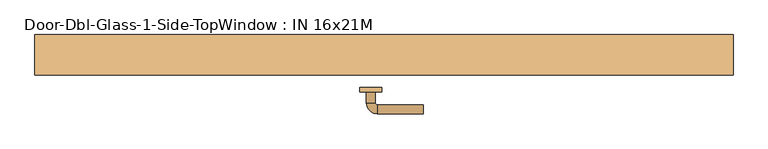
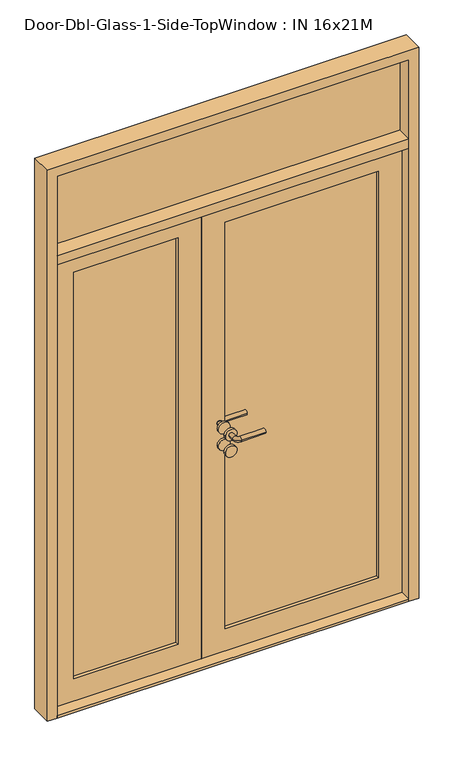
"""IFC4 building model written with IfcOpenShell, lengths in millimetres: door geometry, Door-Dbl-Glass-1-Side-TopWindow : IN 16x21M."""

from ifc_helpers import new_model, si_unit, point, frame, frame_2d, origin, origin_with_axes, place, context, project, spatial, polyline, circle_curve, ellipse_curve, trimmed, segment, composite_curve, outline, extrude, source, transform, mapped, element, save
from ifc_brep_helpers import plane_surface, cylinder_surface, revolved_surface, advanced_brep


def door_dbl_glass_1_side_topwindow_in_16x21m_3a073210(model_context):
    return source(origin(), model_context, "Body", "SolidModel", [
        extrude(outline(polyline([(0.0, 748.0), (0.0, 790.0), (2490.0, 790.0), (2490.0, -800.0), (0.0, -800.0), (0.0, -758.0), (2448.0, -758.0), (2448.0, 748.0), (0.0, 748.0)])), frame((0.0, 63.0, 0.0), z_axis=(0.0, 1.0, 0.0), x_axis=(0.0, 0.0, 1.0)), (0.0, 0.0, 1.0), 92.0),
        extrude(outline(polyline([(2048.0, -110.0), (2048.0, -758.0), (10.0, -758.0), (10.0, -110.0), (2048.0, -110.0)]), holes=[polyline([(110.0, -658.0), (1948.0, -658.0), (1948.0, -210.0), (110.0, -210.0), (110.0, -658.0)])]), frame((0.0, 115.0, 0.0), z_axis=(0.0, 1.0, 0.0), x_axis=(0.0, 0.0, 1.0)), (0.0, 0.0, 1.0), 40.0),
        extrude(outline(polyline([(10.0, 748.0), (2048.0, 748.0), (2048.0, -110.0), (10.0, -110.0), (10.0, 748.0)]), holes=[polyline([(1948.0, -10.0), (1948.0, 648.0), (110.0, 648.0), (110.0, -10.0), (1948.0, -10.0)])]), frame((0.0, 115.0, 0.0), z_axis=(0.0, 1.0, 0.0), x_axis=(0.0, 0.0, 1.0)), (0.0, 0.0, 1.0), 40.0),
        extrude(outline(polyline([(-658.0, 140.0), (-210.0, 140.0), (-210.0, 130.0), (-658.0, 130.0), (-658.0, 140.0)])), frame((0.0, 0.0, 110.0), z_axis=(0.0, 0.0, 1.0), x_axis=(1.0, 0.0, 0.0)), (0.0, 0.0, 1.0), 1838.0),
        extrude(outline(polyline([(-10.0, 140.0), (648.0, 140.0), (648.0, 130.0), (-10.0, 130.0), (-10.0, 140.0)])), frame((0.0, 0.0, 110.0), z_axis=(0.0, 0.0, 1.0), x_axis=(1.0, 0.0, 0.0)), (0.0, 0.0, 1.0), 1838.0),
        extrude(outline(polyline([(0.0, 748.0), (0.0, 790.0), (2490.0, 790.0), (2490.0, -800.0), (0.0, -800.0), (0.0, -758.0), (2048.0, -758.0), (2048.0, 748.0), (0.0, 748.0)]), holes=[polyline([(2090.0, -758.0), (2448.0, -758.0), (2448.0, 748.0), (2090.0, 748.0), (2090.0, -758.0)])]), frame((0.0, 63.0, 0.0), z_axis=(0.0, 1.0, 0.0), x_axis=(0.0, 0.0, 1.0)), (0.0, 0.0, 1.0), 92.0),
        extrude(outline(polyline([(-758.0, 140.0), (748.0, 140.0), (748.0, 130.0), (-758.0, 130.0), (-758.0, 140.0)])), frame((0.0, 0.0, 2090.0), z_axis=(0.0, 0.0, 1.0), x_axis=(1.0, 0.0, 0.0)), (0.0, 0.0, 1.0), 358.0),
        extrude(outline(composite_curve([segment(trimmed(circle_curve(frame_2d((1050.0001042, -35.0)), 25.0), [point((1050.0001042, -60.0))], [point((1050.0001042, -10.0))], False, "CARTESIAN"), True, "CONTINUOUS"), segment(trimmed(circle_curve(frame_2d((1050.0001042, -35.0)), 25.0), [point((1050.0001042, -10.0))], [point((1050.0001042, -60.0))], False, "CARTESIAN"), True, "CONTINUOUS")], self_intersect=False)), frame((0.0, 75.0, 0.0), z_axis=(0.0, 1.0, 0.0), x_axis=(0.0, 0.0, 1.0)), (0.0, 0.0, 1.0), 10.0),
        extrude(outline(composite_curve([segment(trimmed(circle_curve(frame_2d((975.0001042, -35.0)), 25.0), [point((975.0001042, -60.0))], [point((975.0001042, -10.0))], False, "CARTESIAN"), True, "CONTINUOUS"), segment(trimmed(circle_curve(frame_2d((975.0001042, -35.0)), 25.0), [point((975.0001042, -10.0))], [point((975.0001042, -60.0))], False, "CARTESIAN"), True, "CONTINUOUS")], self_intersect=False)), frame((0.0, 75.0, 0.0), z_axis=(0.0, 1.0, 0.0), x_axis=(0.0, 0.0, 1.0)), (0.0, 0.0, 1.0), 10.0),
        advanced_brep(
        [(-45.125, 25.0, 1050.0), (-25.125, 25.0, 1050.0), (-25.125, 0.0, 1050.0), (-45.125, 0.0, 1050.0), (-20.125, -25.0, 1050.0), (-20.125, -5.0, 1050.0), (84.875, -25.0, 1050.0), (84.875, -5.0, 1050.0)],
        [
            (0, 1, circle_curve(frame((-35.125, 25.0, 1050.0), z_axis=(0.0, 1.0, 0.0), x_axis=(1.0, 0.0, 0.0)), 10.0)),
            (1, 0, circle_curve(frame((-35.125, 25.0, 1050.0), z_axis=(0.0, 1.0, 0.0), x_axis=(1.0, 0.0, 0.0)), 10.0)),
            (1, 2),
            (2, 3, circle_curve(frame((-35.125, 0.0, 1050.0), z_axis=(0.0, 1.0, 0.0), x_axis=(1.0, 0.0, 0.0)), 10.0)),
            (3, 0),
            (3, 2, circle_curve(frame((-35.125, 0.0, 1050.0), z_axis=(0.0, 1.0, 0.0), x_axis=(1.0, 0.0, 0.0)), 10.0)),
            (4, 3, circle_curve(frame((-20.125, 0.0, 1050.0), z_axis=(0.0, 0.0, -1.0), x_axis=(-1.0, 0.0, 0.0)), 25.0)),
            (2, 5, circle_curve(frame((-20.125, 0.0, 1050.0), z_axis=(0.0, 0.0, 1.0), x_axis=(-1.0, 0.0, 0.0)), 5.0)),
            (5, 4, circle_curve(frame((-20.125, -15.0, 1050.0), z_axis=(-1.0, 0.0, 0.0), x_axis=(0.0, 1.0, 0.0)), 10.0)),
            (4, 5, circle_curve(frame((-20.125, -15.0, 1050.0), z_axis=(-1.0, 0.0, 0.0), x_axis=(0.0, 1.0, 0.0)), 10.0)),
            (6, 7, circle_curve(frame((84.875, -15.0, 1050.0), z_axis=(1.0, 0.0, 0.0), x_axis=(0.0, 1.0, 0.0)), 10.0)),
            (7, 6, circle_curve(frame((84.875, -15.0, 1050.0), z_axis=(1.0, 0.0, 0.0), x_axis=(0.0, 1.0, 0.0)), 10.0)),
            (5, 7),
            (6, 4),
        ],
        [
            plane_surface(frame((-35.125, 25.0, 0.0), z_axis=(0.0, 1.0, 0.0), x_axis=(0.0, 0.0, 1.0))),
            cylinder_surface(frame((-35.125, 25.0, 1050.0), z_axis=(0.0, 1.0, 0.0), x_axis=(1.0, 0.0, 0.0)), 10.0),
            revolved_surface(trimmed(ellipse_curve(frame((-35.125, 0.0, 1050.0), z_axis=(0.0, 1.0, 0.0), x_axis=(1.0, 0.0, 0.0)), 10.0, 10.0), [point((-25.125, 0.0, 1050.0))], [point((-45.125, 0.0, 1050.0))], True, "CARTESIAN"), (-20.125, 0.0, 0.0), (0.0, 0.0, 1.0)),
            revolved_surface(trimmed(ellipse_curve(frame((-35.125, 0.0, 1050.0), z_axis=(0.0, 1.0, 0.0), x_axis=(1.0, 0.0, 0.0)), 10.0, 10.0), [point((-45.125, 0.0, 1050.0))], [point((-25.125, 0.0, 1050.0))], True, "CARTESIAN"), (-20.125, 0.0, 0.0), (0.0, 0.0, 1.0)),
            plane_surface(frame((84.875, -15.0, 0.0), z_axis=(1.0, 0.0, 0.0), x_axis=(0.0, 0.0, 1.0))),
            cylinder_surface(frame((-20.125, -15.0, 1050.0), z_axis=(-1.0, 0.0, 0.0), x_axis=(0.0, 1.0, 0.0)), 10.0),
        ],
        [
            (0, [[1, 2]]),
            (1, [[-2, 3, 4, 5]]),
            (1, [[-1, -5, 6, -3]]),
            (2, [[7, -4, 8, 9]]),
            (3, [[-8, -6, -7, 10]]),
            (4, [[11, 12]]),
            (5, [[-9, 13, -11, 14]]),
            (5, [[-10, -14, -12, -13]]),
        ],
    ),
        advanced_brep(
        [(-25.125, 85.0, 1050.0), (-45.125, 85.0, 1050.0), (-25.125, 110.0, 1050.0), (-45.125, 110.0, 1050.0), (-20.125, 135.0, 1050.0), (-20.125, 115.0, 1050.0), (84.875, 115.0, 1050.0), (84.875, 135.0, 1050.0)],
        [
            (0, 1, circle_curve(frame((-35.125, 85.0, 1050.0), z_axis=(0.0, -1.0, 0.0), x_axis=(-1.0, 0.0, 0.0)), 10.0)),
            (1, 0, circle_curve(frame((-35.125, 85.0, 1050.0), z_axis=(0.0, -1.0, 0.0), x_axis=(-1.0, 0.0, 0.0)), 10.0)),
            (0, 2),
            (2, 3, circle_curve(frame((-35.125, 110.0, 1050.0), z_axis=(0.0, -1.0, 0.0), x_axis=(-1.0, 0.0, 0.0)), 10.0)),
            (3, 1),
            (3, 2, circle_curve(frame((-35.125, 110.0, 1050.0), z_axis=(0.0, -1.0, 0.0), x_axis=(-1.0, 0.0, 0.0)), 10.0)),
            (4, 3, circle_curve(frame((-20.125, 110.0, 1050.0), z_axis=(0.0, 0.0, 1.0), x_axis=(-1.0, 0.0, 0.0)), 25.0)),
            (2, 5, circle_curve(frame((-20.125, 110.0, 1050.0), z_axis=(0.0, 0.0, -1.0), x_axis=(-1.0, 0.0, 0.0)), 5.0)),
            (5, 4, circle_curve(frame((-20.125, 125.0, 1050.0), z_axis=(-1.0, 0.0, 0.0), x_axis=(0.0, 1.0, 0.0)), 10.0)),
            (4, 5, circle_curve(frame((-20.125, 125.0, 1050.0), z_axis=(-1.0, 0.0, 0.0), x_axis=(0.0, 1.0, 0.0)), 10.0)),
            (6, 7, circle_curve(frame((84.875, 125.0, 1050.0), z_axis=(1.0, 0.0, 0.0), x_axis=(0.0, 1.0, 0.0)), 10.0)),
            (7, 6, circle_curve(frame((84.875, 125.0, 1050.0), z_axis=(1.0, 0.0, 0.0), x_axis=(0.0, 1.0, 0.0)), 10.0)),
            (5, 6),
            (7, 4),
        ],
        [
            plane_surface(frame((-35.125, 85.0, 0.0), z_axis=(0.0, -1.0, 0.0), x_axis=(0.0, 0.0, 1.0))),
            cylinder_surface(frame((-35.125, 85.0, 1050.0), z_axis=(0.0, -1.0, 0.0), x_axis=(-1.0, 0.0, 0.0)), 10.0),
            revolved_surface(trimmed(ellipse_curve(frame((-35.125, 110.0, 1050.0), z_axis=(0.0, -1.0, 0.0), x_axis=(-1.0, 0.0, 0.0)), 10.0, 10.0), [point((-25.125, 110.0, 1050.0))], [point((-45.125, 110.0, 1050.0))], True, "CARTESIAN"), (-20.125, 110.0, 0.0), (0.0, 0.0, -1.0)),
            revolved_surface(trimmed(ellipse_curve(frame((-35.125, 110.0, 1050.0), z_axis=(0.0, -1.0, 0.0), x_axis=(-1.0, 0.0, 0.0)), 10.0, 10.0), [point((-45.125, 110.0, 1050.0))], [point((-25.125, 110.0, 1050.0))], True, "CARTESIAN"), (-20.125, 110.0, 0.0), (0.0, 0.0, -1.0)),
            plane_surface(frame((84.875, 125.0, 0.0), z_axis=(1.0, 0.0, 0.0), x_axis=(0.0, 0.0, 1.0))),
            cylinder_surface(frame((-20.125, 125.0, 1050.0), z_axis=(-1.0, 0.0, 0.0), x_axis=(0.0, 1.0, 0.0)), 10.0),
        ],
        [
            (0, [[1, 2]]),
            (1, [[-1, 3, 4, 5]]),
            (1, [[-2, -5, 6, -3]]),
            (2, [[7, -4, 8, 9]]),
            (3, [[-8, -6, -7, 10]]),
            (4, [[11, 12]]),
            (5, [[-9, 13, -12, 14]]),
            (5, [[-10, -14, -11, -13]]),
        ],
    ),
        extrude(outline(composite_curve([segment(trimmed(circle_curve(frame_2d((1050.0001042, -35.0)), 25.0), [point((1050.0001042, -10.0))], [point((1050.0001042, -60.0))], False, "CARTESIAN"), True, "CONTINUOUS"), segment(trimmed(circle_curve(frame_2d((1050.0001042, -35.0)), 25.0), [point((1050.0001042, -60.0))], [point((1050.0001042, -10.0))], False, "CARTESIAN"), True, "CONTINUOUS")], self_intersect=False)), frame((0.0, 25.0, 0.0), z_axis=(0.0, 1.0, 0.0), x_axis=(0.0, 0.0, 1.0)), (0.0, 0.0, 1.0), 10.0),
        extrude(outline(composite_curve([segment(trimmed(circle_curve(frame_2d((975.0001042, -35.0)), 25.0), [point((975.0001042, -10.0))], [point((975.0001042, -60.0))], False, "CARTESIAN"), True, "CONTINUOUS"), segment(trimmed(circle_curve(frame_2d((975.0001042, -35.0)), 25.0), [point((975.0001042, -60.0))], [point((975.0001042, -10.0))], False, "CARTESIAN"), True, "CONTINUOUS")], self_intersect=False)), frame((0.0, 25.0, 0.0), z_axis=(0.0, 1.0, 0.0), x_axis=(0.0, 0.0, 1.0)), (0.0, 0.0, 1.0), 10.0),
        extrude(outline(polyline([(748.0, 63.0), (-758.0, 63.0), (-758.0, 155.0), (748.0, 155.0), (748.0, 63.0)])), origin_with_axes(), (0.0, 0.0, 1.0), 10.0),
    ])


if __name__ == "__main__":
    model = new_model("IFC4")
    model_context = context("Model", 3, world=origin())
    ifc_project = project(units=[si_unit("LENGTHUNIT", "METRE", prefix="MILLI")], contexts=[model_context])
    site = spatial("IfcSite", under=ifc_project)
    building = spatial("IfcBuilding", under=site)
    placement = place(None, origin())
    door_dbl_glass_1_side_topwindow_in_16x21m_shape = door_dbl_glass_1_side_topwindow_in_16x21m_3a073210(model_context)
    element("IfcDoor", 1, ObjectType="Door-Dbl-Glass-1-Side-TopWindow : IN 16x21M", at=placement, inside=building, context=model_context, shape_type="MappedRepresentation", body=[
        mapped(door_dbl_glass_1_side_topwindow_in_16x21m_shape, transform((0.0, 0.0, 0.0), x_axis=(1.0, 0.0, 0.0), y_axis=(0.0, 1.0, 0.0), z_axis=(0.0, 0.0, 1.0))),
    ])
    save(model, "model.ifc")
